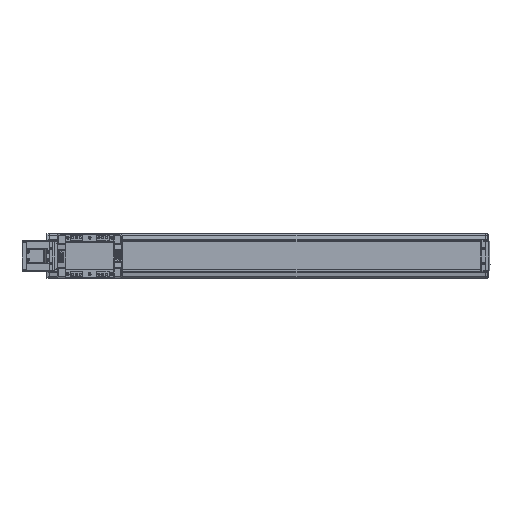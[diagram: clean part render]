
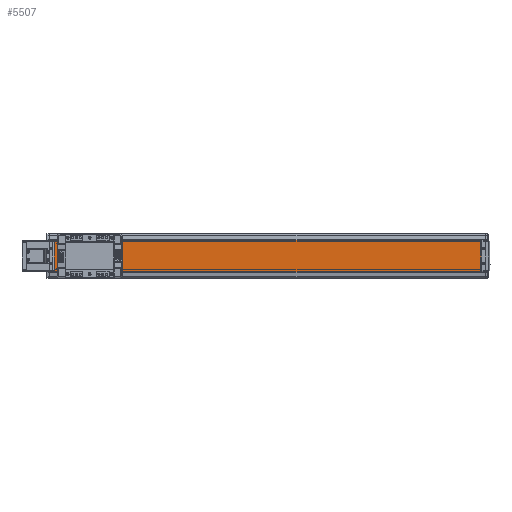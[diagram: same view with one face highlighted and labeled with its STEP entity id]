
A CAD part, top view. The second image highlights one B-rep face of the part: STEP entity #5507.
In plain terms, the highlighted planar face has unit normal (0, 0, 1).
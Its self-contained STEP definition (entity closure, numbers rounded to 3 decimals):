
#5507=ADVANCED_FACE('',(#12203),#12204,.T.);
#12203=FACE_OUTER_BOUND('',#20580,.T.);
#12204=PLANE('',#20581);
#20580=EDGE_LOOP('',(#36786,#36787,#36788,#36789));
#20581=AXIS2_PLACEMENT_3D('',#36790,#36791,#36792);
#36786=ORIENTED_EDGE('',*,*,#53500,.T.);
#36787=ORIENTED_EDGE('',*,*,#54129,.F.);
#36788=ORIENTED_EDGE('',*,*,#50222,.T.);
#36789=ORIENTED_EDGE('',*,*,#50646,.T.);
#36790=CARTESIAN_POINT('',(-580.,0.,20.15));
#36791=DIRECTION('',(0.,0.,1.0));
#36792=DIRECTION('',(0.,-1.0,0.));
#50222=EDGE_CURVE('',#60794,#60792,#60795,.T.);
#50646=EDGE_CURVE('',#60792,#61507,#61509,.T.);
#53500=EDGE_CURVE('',#61507,#65956,#65958,.T.);
#54129=EDGE_CURVE('',#60794,#65956,#66854,.T.);
#60792=VERTEX_POINT('',#75440);
#60794=VERTEX_POINT('',#75443);
#60795=LINE('',#75444,#75445);
#61507=VERTEX_POINT('',#76617);
#61509=LINE('',#76620,#76621);
#65956=VERTEX_POINT('',#82900);
#65958=LINE('',#82903,#82904);
#66854=LINE('',#84078,#84079);
#75440=CARTESIAN_POINT('',(-580.,-35.,20.15));
#75443=CARTESIAN_POINT('',(-580.,35.,20.15));
#75444=CARTESIAN_POINT('',(-580.,35.,20.15));
#75445=VECTOR('',#92818,10.0);
#76617=CARTESIAN_POINT('',(400.,-35.,20.15));
#76620=CARTESIAN_POINT('',(-580.,-35.,20.15));
#76621=VECTOR('',#93379,10.0);
#82900=CARTESIAN_POINT('',(400.,35.,20.15));
#82903=CARTESIAN_POINT('',(400.,35.,20.15));
#82904=VECTOR('',#97280,10.0);
#84078=CARTESIAN_POINT('',(-580.,35.,20.15));
#84079=VECTOR('',#98202,10.0);
#92818=DIRECTION('',(0.,-1.0,0.));
#93379=DIRECTION('',(1.0,0.,0.));
#97280=DIRECTION('',(0.,1.0,0.));
#98202=DIRECTION('',(1.0,0.,0.));
